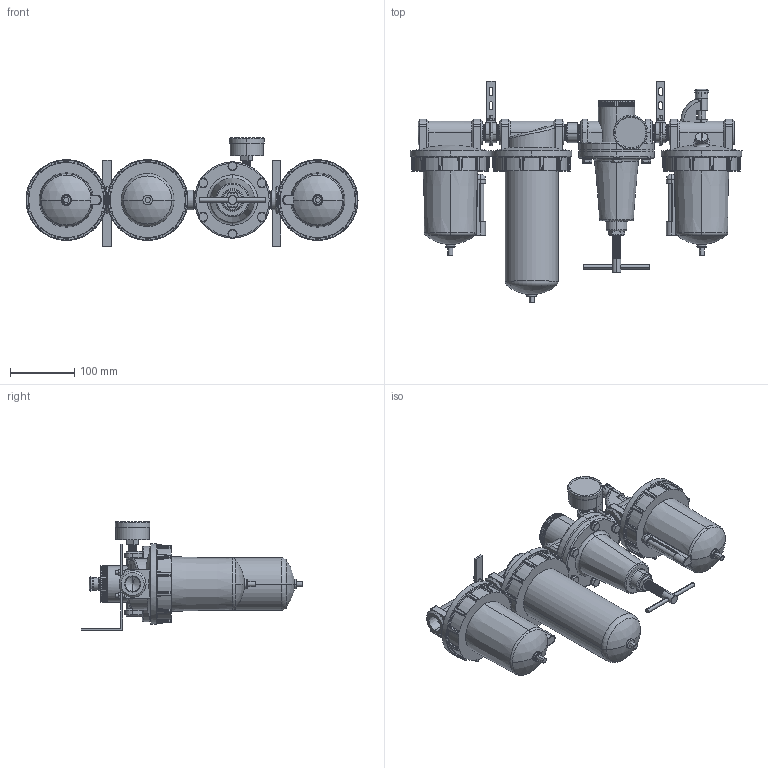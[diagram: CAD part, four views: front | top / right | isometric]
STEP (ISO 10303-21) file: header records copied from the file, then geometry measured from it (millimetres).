
FILE_DESCRIPTION (( 'STEP AP203' ), '1' );
FILE_NAME ('A728#W#-06YB#.STEP', '2016-01-14T17:46:16', ( '' ), ( '' ), 'SwSTEP 2.0', 'SolidWorks 2014', '' );
FILE_SCHEMA (( 'CONFIG_CONTROL_DESIGN' ));
Length unit declared in the file: millimetre
Products named in the file (28): L型-06; L606-W-06-4; F602W-06#YB#; 50-P-AD=1-4PT.SLDPRT; R119-06-6; 50-P-AD=1-4PT-1; L606-W-06-2; R119-06-5; R119-06-2; H604D-06-1; F602W-06; R119-06-7; R119-06-無固定架; H604D-06-2; L606-W-06; ISO 4014 - M8; 3-4-圓; L606-W-06-下; L606-W-06-1; H604D-06YB#; A728#W#-06YB#; L606-W-06-3; L606-W-06-5; 50-P-AD=1-4PT-2; R119-06-4; L606W-06; R119-06-1; R119-06-3
Assembly tree (39 placements, depth 4):
  A728#W#-06YB#
    F602W-06#YB#
      F602W-06
      L606-W-06-2
      L606-W-06-5
    H604D-06YB#
      H604D-06-1
      H604D-06-2
      L606-W-06-5
    3-4-圓  x3
    L606W-06
      L606-W-06
      L606-W-06-1
      L606-W-06-2
      L606-W-06-5
      L606-W-06-4
      L606-W-06-3  x2
      L606-W-06-下
    L型-06  x2
    R119-06-無固定架
      R119-06-1
      R119-06-2
      R119-06-3
      R119-06-4
      R119-06-5
      R119-06-6
      ISO 4014 - M8  x6
      R119-06-7
      50-P-AD=1-4PT.SLDPRT
        50-P-AD=1-4PT-1
        50-P-AD=1-4PT-2
Bounding box: 518.5 x 346.59 x 169 mm (x, y, z)
Volume: 4843841.2 mm3; surface area: 500882 mm2
Topology: 41 solids, 41 shells, 2133 faces, 5231 edges, 3115 vertices
Faces by surface type: plane 656, cylinder 486, cone 426, bspline 344, torus 135, sphere 86
Entity records: 80456 total; most frequent: CARTESIAN_POINT 38828, ORIENTED_EDGE 8678, DIRECTION 7371, EDGE_CURVE 4339, AXIS2_PLACEMENT_3D 3070, VERTEX_POINT 2627, EDGE_LOOP 1856, ADVANCED_FACE 1796
